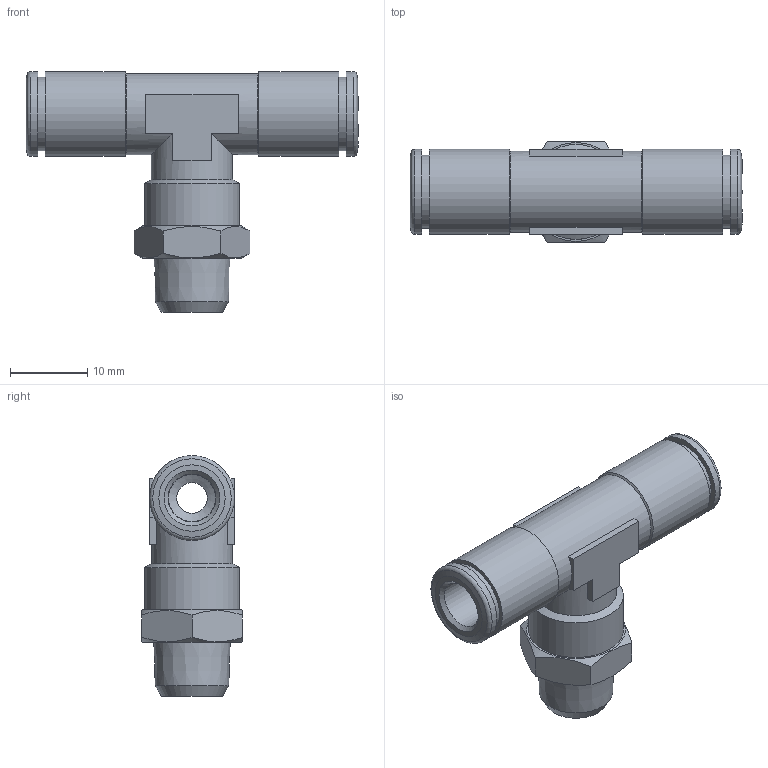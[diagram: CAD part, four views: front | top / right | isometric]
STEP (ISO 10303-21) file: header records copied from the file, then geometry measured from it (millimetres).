
FILE_DESCRIPTION(/* description */ (''),/* implementation_level */ '2;1');
FILE_NAME(/* name */ '202053-ES-I1-N2_STX020K_6_R18_04.07.16',/* time_stamp */ '2016-07-04T11:33:28+02:00',/* author */ (''),/* organization */ (''),/* preprocessor_version */ 'ST-DEVELOPER v16.5',/* originating_system */ 'HiCAD 2016 2101.0 Build 254',/* authorisation */ '');
FILE_SCHEMA (('AUTOMOTIVE_DESIGN { 1 0 10303 214 1 1 1 1 }'));
Length unit declared in the file: millimetre
Products named in the file (5): Root; R202003-ES-N2; 214625-1-N2; DR6-1_NEU
Assembly tree (4 placements, depth 2):
  Root
    R202003-ES-N2
    214625-1-N2
    DR6-1_NEU
    DR6-1_NEU
Bounding box: 43 x 13 x 31.2 mm (x, y, z)
Volume: 3986.9 mm3; surface area: 5206.2 mm2
Topology: 4 solids, 4 shells, 98 faces, 211 edges, 130 vertices
Faces by surface type: plane 41, cone 29, cylinder 26, torus 2
Full cylindrical faces by diameter (mm): 4 x1, 5.5 x1, 6 x1, 6.1 x2, 6.2 x2, 8.3 x2, 9 x4, 9.5 x2, 9.6 x2, 10.1 x2, 10.5 x2, 11 x4, 12.3 x1
Entity records: 4605 total; most frequent: CARTESIAN_POINT 1137, DIRECTION 444, PRESENTATION_STYLE_ASSIGNMENT 294, COLOUR_RGB 291, DRAUGHTING_PRE_DEFINED_CURVE_FONT 290, CURVE_STYLE 290, OVER_RIDING_STYLED_ITEM 290, ORIENTED_EDGE 290
